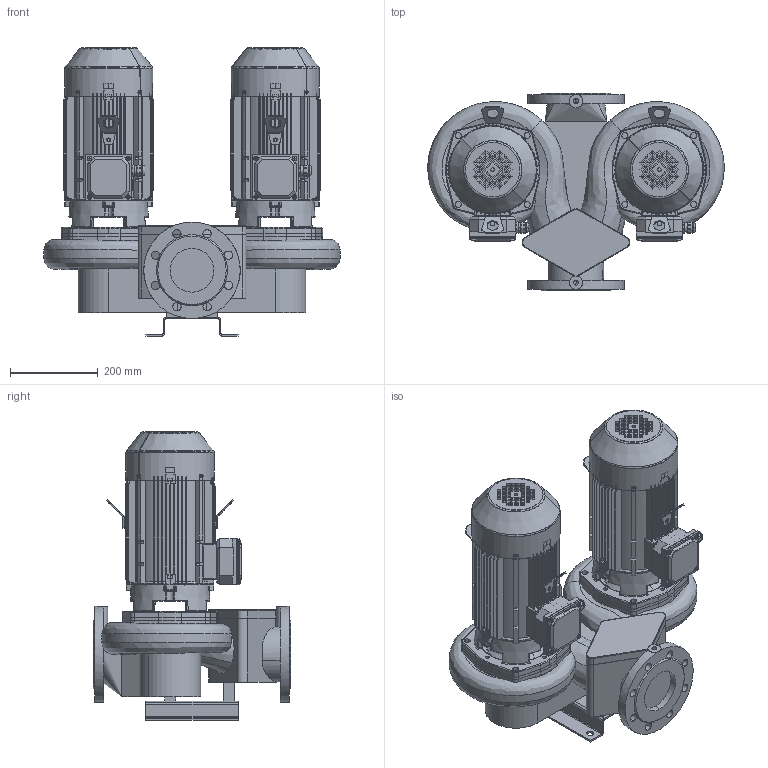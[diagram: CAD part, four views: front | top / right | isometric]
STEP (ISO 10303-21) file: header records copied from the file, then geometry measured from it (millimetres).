
FILE_DESCRIPTION(('STEP AP214'),'1');
FILE_NAME('export.stp','2018-05-28T12:39:34',(' '),(' '),'Spatial InterOp 3D',' ',' ');
FILE_SCHEMA(('AUTOMOTIVE_DESIGN { 1 0 10303 214 1 1 1 1 }'));
Length unit declared in the file: millimetre
Products named in the file (24): W_AT11024220KP100; V_TLL65AB80A1102; V_PPAT1102; V_JALKA35973; 160027; 160005; V_MKP100-2_F19; 160141; 160137; 160138; 160139; 160140; Koura_Ale_M5; Plug_Blind_M20; Sealing_Plug_M20; DIN_7985-M5X8; DIN_7985-M5X12; 160060___; 160059___; 160136; 160134
Assembly tree (46 placements, depth 4):
  W_AT11024220KP100
    V_TLL65AB80A1102  x2
    V_PPAT1102
    V_JALKA35973
    V_MKP100-2_F19
      160027
        160005
      160141
        160137
        160138
        160139
        160140
        Koura_Ale_M5
        Plug_Blind_M20
        Sealing_Plug_M20
        DIN_7985-M5X8
        DIN_7985-M5X12  x4
      160060___
      160059___
      160136
      160134  x2
    V_MKP100-2_F19
      160027
        160005
      160141
        160137
        160138
        160139
        160140
        Koura_Ale_M5
        Plug_Blind_M20
        Sealing_Plug_M20
        DIN_7985-M5X8
        DIN_7985-M5X12  x4
      160060___
      160059___
      160136
      160134  x2
Bounding box: 675.75 x 450 x 657 mm (x, y, z)
Volume: 31366945 mm3; surface area: 5761486.9 mm2
Topology: 40 solids, 42 shells, 4879 faces, 13052 edges, 8279 vertices
Faces by surface type: plane 2135, cylinder 1509, torus 479, bspline 446, cone 280, sphere 30
Entity records: 102006 total; most frequent: CARTESIAN_POINT 33612, ORIENTED_EDGE 13330, DIRECTION 12342, EDGE_CURVE 6667, AXIS2_PLACEMENT_3D 4607, VERTEX_POINT 4260, LINE 3128, VECTOR 3128
